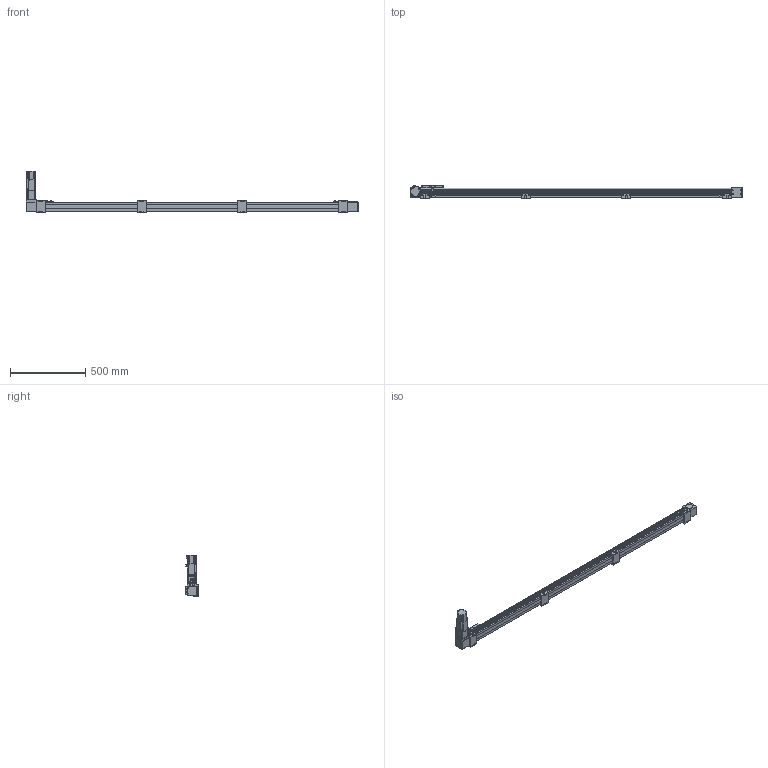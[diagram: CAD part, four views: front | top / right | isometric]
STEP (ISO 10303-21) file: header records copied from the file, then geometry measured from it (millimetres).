
FILE_DESCRIPTION(/* description */ ('STEP AP203'),/* implementation_level */ '2;1');
FILE_NAME(/* name */ 'SK60-P13-S1900-BL-T40-C1-N(0)',/* time_stamp */ '2023-04-06T03:37:34+02:00',/* author */ ('License CC BY-ND 4.0'),/* organization */ ('CADENAS'),/* preprocessor_version */ 'ST-DEVELOPER v19.3',/* originating_system */ 'PARTsolutions',/* authorisation */ ' ');
FILE_SCHEMA (('CONFIG_CONTROL_DESIGN'));
Length unit declared in the file: millimetre
Products named in the file (11): SK60-P13-S1900-BL-T40-C1-N(0); PSC140-sensor; SK60-S450_seat; SK60-S450-BL-C1_slider; SK60_body3; SK60_body6; SK60-BL_body2; T40-p1; SK60_body5; SK60_body4; SK60-S1900-BL-C1_body
Assembly tree (19 placements, depth 2):
  SK60-P13-S1900-BL-T40-C1-N(0)
    PSC140-sensor  x3
    SK60-S450_seat  x4
    SK60-S450-BL-C1_slider
    SK60_body3  x3
    SK60_body6  x2
    SK60-BL_body2  x2
    T40-p1
    SK60_body5
    SK60_body4
    SK60-S1900-BL-C1_body
Bounding box: 2200 x 90 x 278.2 mm (x, y, z)
Volume: 8057883.9 mm3; surface area: 1006334 mm2
Topology: 19 solids, 23 shells, 922 faces, 2305 edges, 1522 vertices
Faces by surface type: plane 592, cylinder 298, cone 30, torus 2
Full cylindrical faces by diameter (mm): 2.8 x3, 3.3 x4, 4.2 x8, 4.5 x26, 4.6 x3, 4.917 x24, 5 x2, 5.478 x4, 5.5 x27, 6.5 x8, 8 x4, 8.5 x4, 9.988 x4, 10 x16, 13.556 x1, 14 x1, 14.586 x1, 19.692 x1, 38.432 x2, 43 x1, 44 x3, 47 x2, 50 x2
Entity records: 19387 total; most frequent: DIRECTION 3296, CARTESIAN_POINT 3291, ORIENTED_EDGE 3050, EDGE_CURVE 1525, AXIS2_PLACEMENT_3D 1102, LINE 1092, VECTOR 1092, VERTEX_POINT 1077
